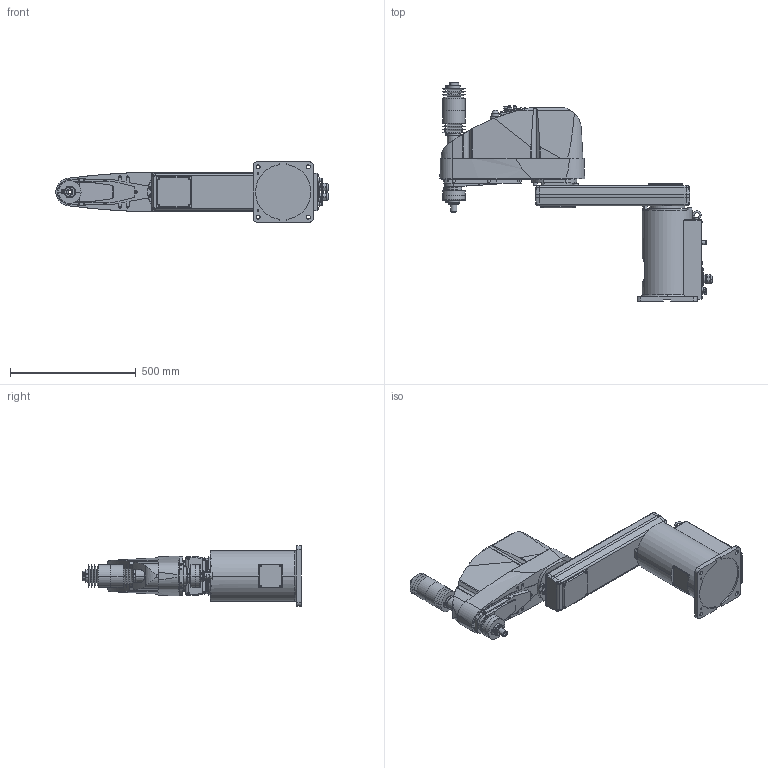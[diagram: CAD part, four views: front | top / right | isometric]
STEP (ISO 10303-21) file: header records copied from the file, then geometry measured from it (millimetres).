
FILE_DESCRIPTION( ( '' ), '1' );
FILE_NAME( '//expscmdclustefs.cadenas.external/client_exchange/iodir/jobs/output/wkb51508250_no0/STEP/G10_851C_2_14b.stp', '2012-11-22T14:13:22', ( '' ), ( '' ), ' ', ' ', ' ' );
FILE_SCHEMA( ( 'automotive_design' ) );
Length unit declared in the file: millimetre
Products named in the file (8): 1; 2; 3; 4; 5; 6; 7; 8
Bounding box: 1084.5 x 870.5 x 240 mm (x, y, z)
Volume: 41684090.5 mm3; surface area: 1612221.4 mm2
Topology: 8 solids, 9 shells, 2023 faces, 4917 edges, 3185 vertices
Faces by surface type: plane 1092, cylinder 655, cone 234, torus 41, sphere 1
Entity records: 118339 total; most frequent: CARTESIAN_POINT 12672, DIRECTION 10502, STYLED_ITEM 10129, PRESENTATION_STYLE_ASSIGNMENT 10129, COLOUR_RGB 10129, ORIENTED_EDGE 9826, EDGE_CURVE 4913, CURVE_STYLE 4913
